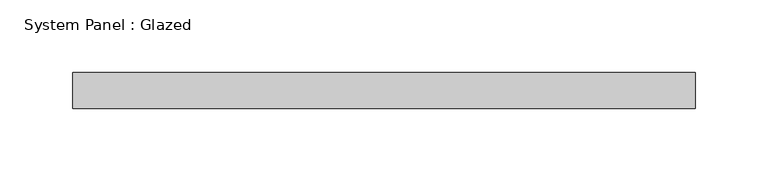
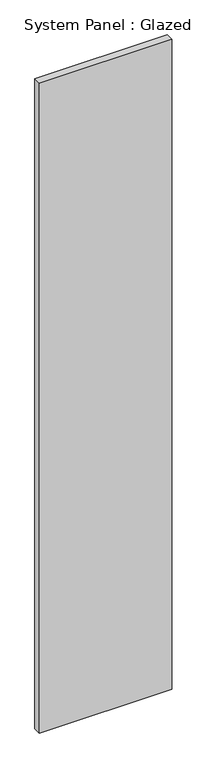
"""IFC4 building model written with IfcOpenShell, lengths in millimetres: plate geometry, System Panel : Glazed."""

from ifc_helpers import new_model, si_unit, origin, origin_with_axes, place, context, project, spatial, polyline, outline, extrude, source, transform, mapped, element, save


def system_panel_glazed_834570a4(model_context):
    return source(origin(), model_context, "Body", "SweptSolid", [
        extrude(outline(polyline([(214.5000001, -49.5), (-214.5000001, -49.5), (-214.5000001, -24.5), (214.5000001, -24.5), (214.5000001, -49.5)])), origin_with_axes(), (0.0, 0.0, 1.0), 2225.0),
    ])


if __name__ == "__main__":
    model = new_model("IFC4")
    model_context = context("Model", 3, world=origin())
    ifc_project = project(units=[si_unit("LENGTHUNIT", "METRE", prefix="MILLI")], contexts=[model_context])
    site = spatial("IfcSite", under=ifc_project)
    building = spatial("IfcBuilding", under=site)
    placement = place(None, origin())
    system_panel_glazed_shape = system_panel_glazed_834570a4(model_context)
    element("IfcPlate", 1, ObjectType="System Panel : Glazed", at=placement, inside=building, context=model_context, shape_type="MappedRepresentation", body=[
        mapped(system_panel_glazed_shape, transform((0.0, 0.0, 0.0), x_axis=(1.0, 0.0, 0.0), y_axis=(0.0, 1.0, 0.0), z_axis=(0.0, 0.0, 1.0))),
    ])
    save(model, "model.ifc")
